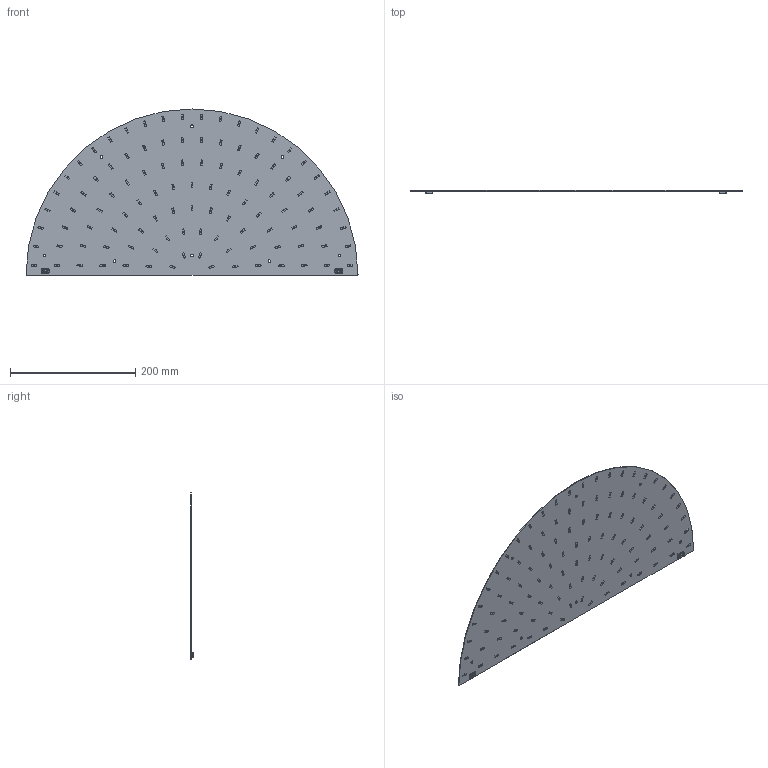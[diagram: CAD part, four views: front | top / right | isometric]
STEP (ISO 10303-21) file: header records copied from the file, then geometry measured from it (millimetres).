
FILE_DESCRIPTION(/* description */ ('Unknown'),/* implementation_level */ '2;1');
FILE_NAME(/* name */ 'RdLED 1-2 530mm 3000lm 827-865 39V Opt G1 sh-000 2022-03-01',/* time_stamp */ '2022-03-01T15:21:13+01:00',/* author */ ('Unknown'),/* organization */ ('Unknown'),/* preprocessor_version */ 'ST-DEVELOPER v16.7',/* originating_system */ 'Solid Edge',/* authorisation */ 'Unknown');
FILE_SCHEMA (('AUTOMOTIVE_DESIGN {1 0 10303 214 3 1 1}'));
Products named in the file (1): RdLED 1-2 530mm 3000lm 827-865 39V Opt G1 sh-000 2022-03-01
Bounding box: 530 x 4.5 x 265 mm (x, y, z)
Volume: 111930.4 mm3; surface area: 224424 mm2
Topology: 3 solids, 3 shells, 4156 faces, 10864 edges, 7132 vertices
Faces by surface type: plane 3657, cylinder 231, bspline 174, cone 52, torus 22, sphere 20
Full cylindrical faces by diameter (mm): 4.2 x8
Entity records: 158719 total; most frequent: CARTESIAN_POINT 29037, ORIENTED_EDGE 21636, DIRECTION 18564, EDGE_CURVE 10818, LINE 9734, VECTOR 9734, VERTEX_POINT 7122, EDGE_LOOP 4626
